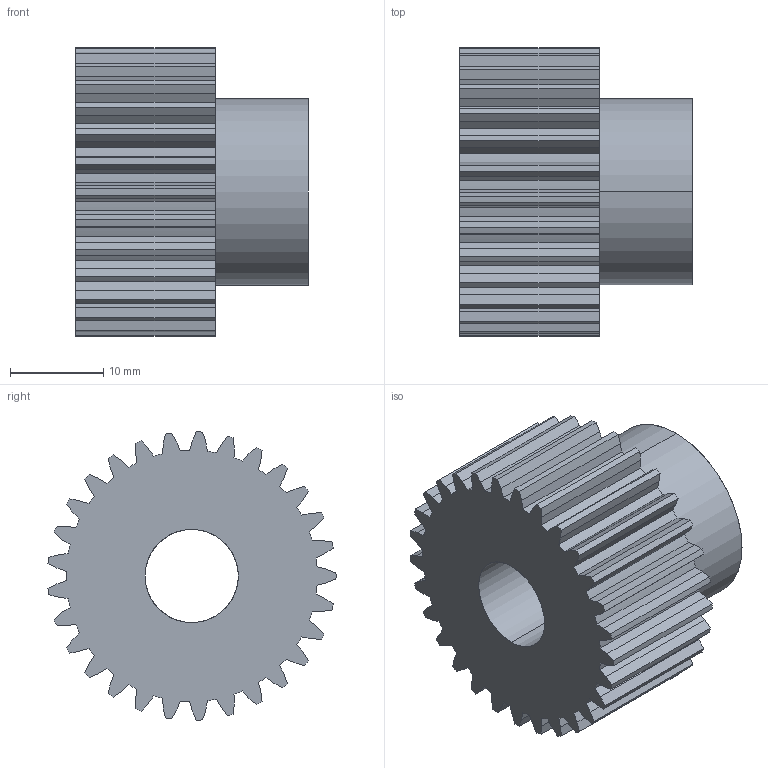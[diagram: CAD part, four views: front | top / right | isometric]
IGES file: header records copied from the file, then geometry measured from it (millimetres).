
Start section: SolidWorks IGES file using analytic representation for surfaces
Global section: file name: C:\Users\Honza\Desktop\Èelní ozubená kola\rozbalene\PM\MODUL 1\PM 26029.IGS; native system: SolidWorks 2010; preprocessor: SolidWorks 2010; author: Honza; date: 130923.143530; units: millimetre
Bounding box: 25 x 30.94 x 30.98 mm (x, y, z)
Surface area: 5132.9 mm2 (no closed solid volume)
Topology: 0 solids, 0 shells, 181 faces, 1190 edges, 1190 vertices
Faces by surface type: bspline 119, revolution 62
